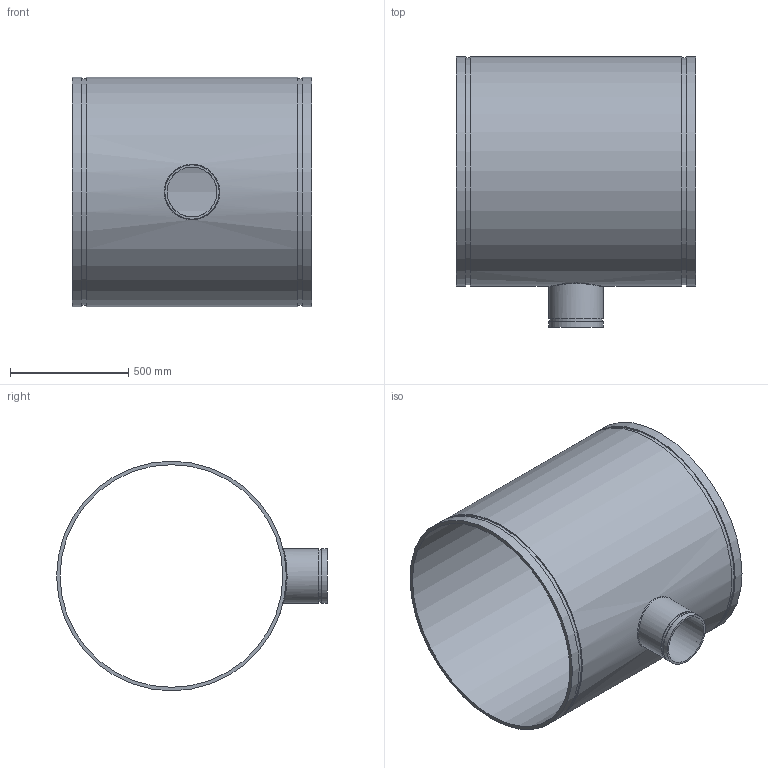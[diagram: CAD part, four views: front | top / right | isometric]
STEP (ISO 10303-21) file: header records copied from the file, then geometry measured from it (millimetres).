
FILE_DESCRIPTION(/* description */ ('VIC REDUCING TEE No 25-C','CAx-IF Rec.Pracs.---Representation and Presentation of Product Manufacturing Information (PMI)---4.0---2014-10-13'),/* implementation_level */ '2;1');
FILE_NAME(/* name */ 'C:\Users\Vjadhav\AppData\Roaming\Autodesk\ApplicationPlugins\Back Up\Victaulic_AWWA_Tee Reducing_No 25-C (DRG)\Victaulic_AWWA_Tee Reducing_No 25-C (DRG)_36.0x08.0 (900x200).stp',/* time_stamp */ '2020-08-18T18:19:27+06:00',/* author */ ('CORINNE GRAY'),/* organization */ ('Victaulic'),/* preprocessor_version */ 'ST-DEVELOPER v17.2',/* originating_system */ 'Autodesk Inventor 2019',/* authorisation */ '');
FILE_SCHEMA (('AP242_MANAGED_MODEL_BASED_3D_ENGINEERING_MIM_LF { 1 0 10303 442 1 1 4 }'));
Length unit declared in the file: inch
Products named in the file (1): 25C-36.0x08.0
Bounding box: 1016 x 1146.81 x 972.82 mm (x, y, z)
Volume: 44983935.4 mm3; surface area: 6465969.3 mm2
Topology: 1 solids, 1 shells, 20 faces, 44 edges, 33 vertices
Faces by surface type: cylinder 10, plane 9, bspline 1
Full cylindrical faces by diameter (mm): 211.582 x1, 223.037 x1, 229.87 x2, 943.356 x1, 961.39 x2, 972.82 x3
Entity records: 982 total; most frequent: CARTESIAN_POINT 358, DIRECTION 135, ORIENTED_EDGE 90, AXIS2_PLACEMENT_3D 62, EDGE_CURVE 45, VERTEX_POINT 34, EDGE_LOOP 31, CIRCLE 29
